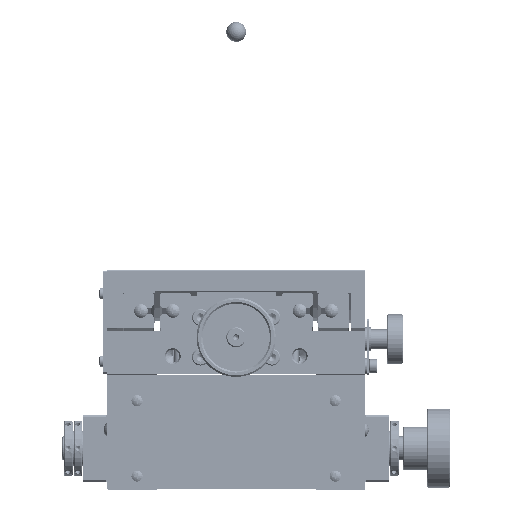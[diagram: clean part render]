
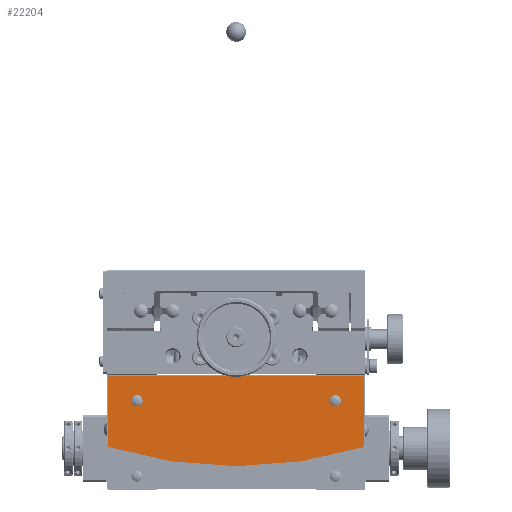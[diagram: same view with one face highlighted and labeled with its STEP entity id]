
A CAD part, front view. The second image highlights one B-rep face of the part: STEP entity #22204.
In plain terms, the highlighted planar face has unit normal (0, -1, 0).
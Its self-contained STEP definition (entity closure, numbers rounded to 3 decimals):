
#17243 = CARTESIAN_POINT ( 'NONE',  ( -64.5, -67., -36.286 ) ) ;
#17245 = DIRECTION ( 'NONE',  ( 1., 0., 0. ) ) ;
#17247 = DIRECTION ( 'NONE',  ( 0., -1., 0. ) ) ;
#17248 = CARTESIAN_POINT ( 'NONE',  ( 0., -67., 173. ) ) ;
#17250 = AXIS2_PLACEMENT_3D ( 'NONE', #17248, #17247, #17245 ) ;
#17251 = CIRCLE ( 'NONE', #17250, 219. ) ;
#17255 = CARTESIAN_POINT ( 'NONE',  ( 64.5, -67., -36.286 ) ) ;
#21654 = EDGE_CURVE ( 'NONE', #134570, #134569, #122699, .T. ) ;
#21963 = EDGE_CURVE ( 'NONE', #134598, #134491, #122932, .T. ) ;
#22128 = EDGE_CURVE ( 'NONE', #36688, #22131, #123147, .T. ) ;
#22131 = VERTEX_POINT ( 'NONE', #123143 ) ;
#22192 = EDGE_CURVE ( 'NONE', #22131, #22226, #123170, .T. ) ;
#22204 = ADVANCED_FACE ( 'NONE', ( #123161, #123160, #123159 ), #123158, .T. ) ;
#22205 = EDGE_LOOP ( 'NONE', ( #22206, #22207 ) ) ;
#22206 = ORIENTED_EDGE ( 'NONE', *, *, #134566, .F. ) ;
#22207 = ORIENTED_EDGE ( 'NONE', *, *, #21654, .F. ) ;
#22209 = VERTEX_POINT ( 'NONE', #123153 ) ;
#22224 = EDGE_CURVE ( 'NONE', #22226, #22209, #123210, .T. ) ;
#22226 = VERTEX_POINT ( 'NONE', #123201 ) ;
#22239 = EDGE_CURVE ( 'NONE', #22240, #36696, #123191, .T. ) ;
#22240 = VERTEX_POINT ( 'NONE', #123181 ) ;
#22253 = EDGE_CURVE ( 'NONE', #22209, #22240, #123241, .T. ) ;
#22309 = EDGE_LOOP ( 'NONE', ( #22311, #22312 ) ) ;
#22311 = ORIENTED_EDGE ( 'NONE', *, *, #134490, .F. ) ;
#22312 = ORIENTED_EDGE ( 'NONE', *, *, #21963, .F. ) ;
#22313 = EDGE_LOOP ( 'NONE', ( #22314, #22315, #22317, #22320, #22321, #22324 ) ) ;
#22314 = ORIENTED_EDGE ( 'NONE', *, *, #22192, .T. ) ;
#22315 = ORIENTED_EDGE ( 'NONE', *, *, #22224, .T. ) ;
#22317 = ORIENTED_EDGE ( 'NONE', *, *, #22253, .T. ) ;
#22320 = ORIENTED_EDGE ( 'NONE', *, *, #22239, .T. ) ;
#22321 = ORIENTED_EDGE ( 'NONE', *, *, #36693, .T. ) ;
#22324 = ORIENTED_EDGE ( 'NONE', *, *, #22128, .T. ) ;
#36688 = VERTEX_POINT ( 'NONE', #17255 ) ;
#36693 = EDGE_CURVE ( 'NONE', #36696, #36688, #17251, .T. ) ;
#36696 = VERTEX_POINT ( 'NONE', #17243 ) ;
#94437 = CARTESIAN_POINT ( 'NONE',  ( -47.2, -67., -13. ) ) ;
#94438 = DIRECTION ( 'NONE',  ( 1., 0., 0. ) ) ;
#94439 = DIRECTION ( 'NONE',  ( 0., -1., 0. ) ) ;
#94440 = CARTESIAN_POINT ( 'NONE',  ( -50., -67., -13. ) ) ;
#94441 = AXIS2_PLACEMENT_3D ( 'NONE', #94440, #94439, #94438 ) ;
#94446 = CIRCLE ( 'NONE', #94441, 2.8 ) ;
#94537 = CARTESIAN_POINT ( 'NONE',  ( 47.2, -67., -13. ) ) ;
#94538 = CARTESIAN_POINT ( 'NONE',  ( 52.8, -67., -13. ) ) ;
#94539 = DIRECTION ( 'NONE',  ( 1., 0., 0. ) ) ;
#94540 = DIRECTION ( 'NONE',  ( 0., -1., 0. ) ) ;
#94541 = CARTESIAN_POINT ( 'NONE',  ( 50., -67., -13. ) ) ;
#94542 = AXIS2_PLACEMENT_3D ( 'NONE', #94541, #94540, #94539 ) ;
#94543 = CIRCLE ( 'NONE', #94542, 2.8 ) ;
#94567 = CARTESIAN_POINT ( 'NONE',  ( -52.8, -67., -13. ) ) ;
#122695 = DIRECTION ( 'NONE',  ( 1., 0., 0. ) ) ;
#122696 = DIRECTION ( 'NONE',  ( 0., -1., 0. ) ) ;
#122697 = CARTESIAN_POINT ( 'NONE',  ( 50., -67., -13. ) ) ;
#122698 = AXIS2_PLACEMENT_3D ( 'NONE', #122697, #122696, #122695 ) ;
#122699 = CIRCLE ( 'NONE', #122698, 2.8 ) ;
#122924 = DIRECTION ( 'NONE',  ( 1., 0., 0. ) ) ;
#122925 = DIRECTION ( 'NONE',  ( 0., -1., 0. ) ) ;
#122926 = CARTESIAN_POINT ( 'NONE',  ( -50., -67., -13. ) ) ;
#122927 = AXIS2_PLACEMENT_3D ( 'NONE', #122926, #122925, #122924 ) ;
#122932 = CIRCLE ( 'NONE', #122927, 2.8 ) ;
#123143 = CARTESIAN_POINT ( 'NONE',  ( 64.5, -67., -1.3 ) ) ;
#123144 = DIRECTION ( 'NONE',  ( 0., 0., 1. ) ) ;
#123145 = VECTOR ( 'NONE', #123144, 1000. ) ;
#123146 = CARTESIAN_POINT ( 'NONE',  ( 64.5, -67., -36.286 ) ) ;
#123147 = LINE ( 'NONE', #123146, #123145 ) ;
#123153 = CARTESIAN_POINT ( 'NONE',  ( -63.7, -67., -0.5 ) ) ;
#123154 = DIRECTION ( 'NONE',  ( 1., 0., 0. ) ) ;
#123155 = DIRECTION ( 'NONE',  ( 0., -1., 0. ) ) ;
#123156 = CARTESIAN_POINT ( 'NONE',  ( 0., -67., 173. ) ) ;
#123157 = AXIS2_PLACEMENT_3D ( 'NONE', #123156, #123155, #123154 ) ;
#123158 = PLANE ( 'NONE',  #123157 ) ;
#123159 = FACE_OUTER_BOUND ( 'NONE', #22313, .T. ) ;
#123160 = FACE_BOUND ( 'NONE', #22309, .T. ) ;
#123161 = FACE_BOUND ( 'NONE', #22205, .T. ) ;
#123162 = DIRECTION ( 'NONE',  ( -0.707, 0., 0.707 ) ) ;
#123163 = VECTOR ( 'NONE', #123162, 1000. ) ;
#123164 = CARTESIAN_POINT ( 'NONE',  ( 64.5, -67., -1.3 ) ) ;
#123170 = LINE ( 'NONE', #123164, #123163 ) ;
#123181 = CARTESIAN_POINT ( 'NONE',  ( -64.5, -67., -1.3 ) ) ;
#123182 = DIRECTION ( 'NONE',  ( 0., 0., -1. ) ) ;
#123183 = VECTOR ( 'NONE', #123182, 1000. ) ;
#123184 = CARTESIAN_POINT ( 'NONE',  ( -64.5, -67., -1.3 ) ) ;
#123191 = LINE ( 'NONE', #123184, #123183 ) ;
#123201 = CARTESIAN_POINT ( 'NONE',  ( 63.7, -67., -0.5 ) ) ;
#123202 = DIRECTION ( 'NONE',  ( -1., 0., 0. ) ) ;
#123203 = VECTOR ( 'NONE', #123202, 1000. ) ;
#123204 = CARTESIAN_POINT ( 'NONE',  ( 63.7, -67., -0.5 ) ) ;
#123210 = LINE ( 'NONE', #123204, #123203 ) ;
#123233 = DIRECTION ( 'NONE',  ( -0.707, 0., -0.707 ) ) ;
#123234 = VECTOR ( 'NONE', #123233, 1000. ) ;
#123235 = CARTESIAN_POINT ( 'NONE',  ( -63.7, -67., -0.5 ) ) ;
#123241 = LINE ( 'NONE', #123235, #123234 ) ;
#134490 = EDGE_CURVE ( 'NONE', #134491, #134598, #94446, .T. ) ;
#134491 = VERTEX_POINT ( 'NONE', #94437 ) ;
#134566 = EDGE_CURVE ( 'NONE', #134569, #134570, #94543, .T. ) ;
#134569 = VERTEX_POINT ( 'NONE', #94538 ) ;
#134570 = VERTEX_POINT ( 'NONE', #94537 ) ;
#134598 = VERTEX_POINT ( 'NONE', #94567 ) ;
